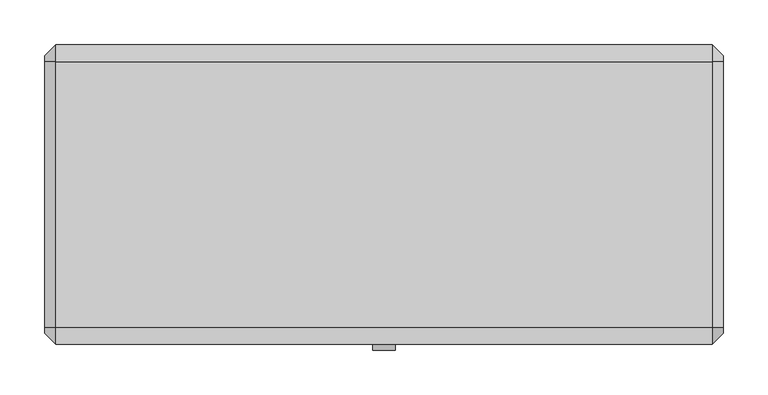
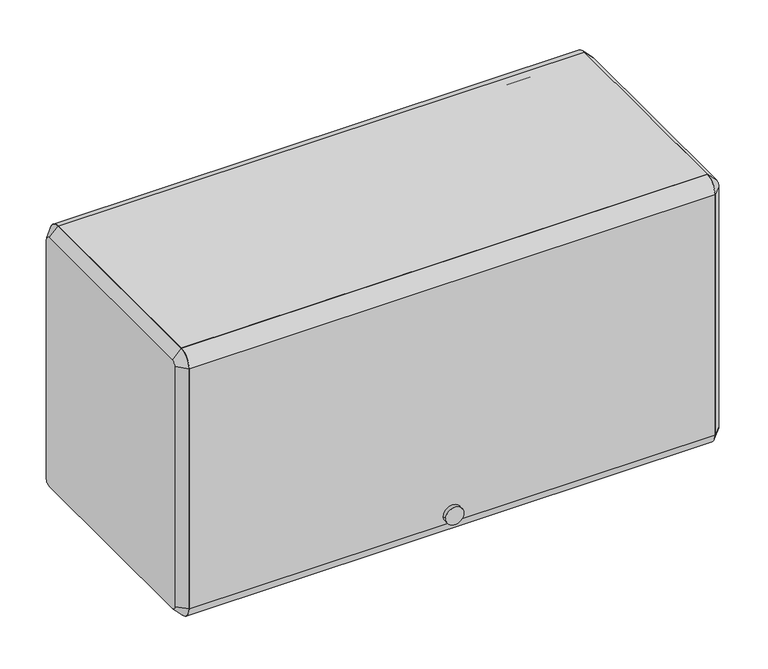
"""IFC4 building model written with IfcOpenShell, lengths in millimetres: furniture geometry."""

from ifc_helpers import new_model, si_unit, point, frame, frame_2d, origin, place, context, project, spatial, polyline, circle_curve, trimmed, segment, composite_curve, outline, extrude, source, transform, mapped, element, save
from ifc_brep_helpers import plane_surface, revolved_surface, advanced_brep


def furniture_12885719(model_context):
    return source(origin(), model_context, "Body", "SolidModel", [
        extrude(outline(composite_curve([segment(polyline([(-136.525, 1917.7), (-136.525, 1930.4), (161.925, 1930.4)]), True, "CONTINUOUS"), segment(trimmed(circle_curve(frame_2d((161.925, 1911.35)), 19.05), [point((161.925, 1930.4))], [point((180.975, 1911.35))], False, "CARTESIAN"), True, "CONTINUOUS"), segment(polyline([(180.975, 1911.35), (168.275, 1911.35)]), True, "CONTINUOUS"), segment(trimmed(circle_curve(frame_2d((161.925, 1911.35)), 6.35), [point((168.275, 1911.35))], [point((161.925, 1917.7))], True, "CARTESIAN"), True, "CONTINUOUS"), segment(polyline([(161.925, 1917.7), (-136.525, 1917.7)]), True, "CONTINUOUS")], self_intersect=False)), frame((-368.3, 0.0, 0.0), z_axis=(1.0, 0.0, 0.0), x_axis=(0.0, 1.0, 0.0)), (0.0, 0.0, 1.0), 736.6),
        extrude(outline(composite_curve([segment(trimmed(circle_curve(frame_2d((-136.525, 1911.35)), 19.05), [point((-155.575, 1911.35))], [point((-136.525, 1930.4))], False, "CARTESIAN"), True, "CONTINUOUS"), segment(polyline([(-136.525, 1930.4), (-136.525, 1917.7)]), True, "CONTINUOUS"), segment(trimmed(circle_curve(frame_2d((-136.525, 1911.35)), 6.35), [point((-136.525, 1917.7))], [point((-142.875, 1911.35))], True, "CARTESIAN"), True, "CONTINUOUS"), segment(polyline([(-142.875, 1911.35), (-142.875, 1555.75)]), True, "CONTINUOUS"), segment(trimmed(circle_curve(frame_2d((-136.525, 1555.75)), 6.35), [point((-142.875, 1555.75))], [point((-136.525, 1549.4))], True, "CARTESIAN"), True, "CONTINUOUS"), segment(polyline([(-136.525, 1549.4), (-136.525, 1536.7)]), True, "CONTINUOUS"), segment(trimmed(circle_curve(frame_2d((-136.525, 1555.75)), 19.05), [point((-136.525, 1536.7))], [point((-155.575, 1555.75))], False, "CARTESIAN"), True, "CONTINUOUS"), segment(polyline([(-155.575, 1555.75), (-155.575, 1911.35)]), True, "CONTINUOUS")], self_intersect=False)), frame((-368.3, 0.0, 0.0), z_axis=(1.0, 0.0, 0.0), x_axis=(0.0, 1.0, 0.0)), (0.0, 0.0, 1.0), 736.6),
        extrude(outline(composite_curve([segment(trimmed(circle_curve(frame_2d((1568.4118906, 0.0201199)), 12.7253951), [point((1568.4118906, 12.745515))], [point((1568.4118906, -12.7052752))], False, "CARTESIAN"), True, "CONTINUOUS"), segment(trimmed(circle_curve(frame_2d((1568.4118906, 0.0201199)), 12.7253951), [point((1568.4118906, -12.7052752))], [point((1568.4118906, 12.745515))], False, "CARTESIAN"), True, "CONTINUOUS")], self_intersect=False)), frame((0.0, -161.925, 0.0), z_axis=(0.0, 1.0, 0.0), x_axis=(0.0, 0.0, 1.0)), (0.0, 0.0, 1.0), 6.35),
        extrude(outline(polyline([(-136.525, 1574.8), (161.925, 1574.8), (161.925, 1612.9), (174.625, 1612.9), (174.625, 1609.725), (165.1, 1609.725), (165.1, 1571.625), (-133.35, 1571.625), (-133.35, 1552.575), (-136.525, 1552.575), (-136.525, 1574.8)])), frame((-368.3, 0.0, 0.0), z_axis=(1.0, 0.0, 0.0), x_axis=(0.0, 1.0, 0.0)), (0.0, 0.0, 1.0), 736.6),
        advanced_brep(
        [(381.0, 161.925, 1917.7), (381.0, -136.525, 1917.7), (381.0, -142.875, 1911.35), (381.0, -142.875, 1555.75), (381.0, -136.525, 1549.4), (381.0, 161.925, 1549.4), (381.0, 168.275, 1555.75), (381.0, 168.275, 1911.35), (368.3, 161.925, 1930.4), (368.3, 180.975, 1911.35), (368.3, 180.975, 1555.75), (368.3, 161.925, 1536.7), (368.3, -136.525, 1536.7), (368.3, -155.575, 1555.75), (368.3, -155.575, 1911.35), (368.3, -136.525, 1930.4)],
        [
            (0, 1),
            (1, 2, circle_curve(frame((381.0, -136.525, 1911.35), z_axis=(1.0, 6.490807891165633e-12, -6.586731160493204e-12), x_axis=(6.586694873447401e-12, 0.0, 1.0)), 6.35)),
            (2, 3),
            (3, 4, circle_curve(frame((381.0, -136.525, 1555.75), z_axis=(1.0, 3.3733016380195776e-12, 3.3892888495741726e-12), x_axis=(3.373343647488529e-12, -1.0, 0.0)), 6.35)),
            (4, 5),
            (5, 6, circle_curve(frame((381.0, 161.925, 1555.75), z_axis=(1.0, 3.381295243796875e-12, -3.3892888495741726e-12), x_axis=(-3.38935859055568e-12, 0.0, -1.0)), 6.35)),
            (6, 7),
            (7, 0, circle_curve(frame((381.0, 161.925, 1911.35), z_axis=(1.0, 6.482814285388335e-12, 6.4162009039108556e-12), x_axis=(-6.482754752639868e-12, 1.0, 0.0)), 6.35)),
            (8, 9, circle_curve(frame((368.3, 161.925, 1911.35), z_axis=(-1.0, -6.482814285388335e-12, -6.4162009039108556e-12), x_axis=(-6.482754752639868e-12, 1.0, 0.0)), 19.05)),
            (9, 10),
            (10, 11, circle_curve(frame((368.3, 161.925, 1555.75), z_axis=(-1.0, -3.381295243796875e-12, 3.3892888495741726e-12), x_axis=(-3.38935859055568e-12, 0.0, -1.0)), 19.05)),
            (11, 12),
            (12, 13, circle_curve(frame((368.3, -136.525, 1555.75), z_axis=(-1.0, -3.3733016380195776e-12, -3.3892888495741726e-12), x_axis=(3.373343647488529e-12, -1.0, 0.0)), 19.05)),
            (13, 14),
            (14, 15, circle_curve(frame((368.3, -136.525, 1911.35), z_axis=(-1.0, -6.490807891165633e-12, 6.586731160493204e-12), x_axis=(6.586694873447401e-12, 0.0, 1.0)), 19.05)),
            (15, 8),
            (15, 1),
            (0, 8),
            (14, 2),
            (13, 3),
            (12, 4),
            (11, 5),
            (10, 6),
            (9, 7),
        ],
        [
            plane_surface(frame((381.0, 12.7, 1733.55), z_axis=(1.0, 0.0, 0.0), x_axis=(0.0, -1.0, 0.0))),
            plane_surface(frame((368.3, 12.7, 1733.55), z_axis=(-1.0, 0.0, 0.0), x_axis=(0.0, -1.0, 0.0))),
            plane_surface(frame((368.3, 12.7, 1930.4), z_axis=(0.707106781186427, 0.0, 0.7071067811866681), x_axis=(0.0, -1.0, 0.0))),
            revolved_surface(polyline([(381.00000000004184, -136.525, 1917.6999999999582), (368.3, -136.525, 1930.4)]), (387.35, -136.525, 1911.35), (-1.0, -6.490807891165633e-12, 6.586731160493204e-12)),
            plane_surface(frame((368.3, -155.575, 1733.55), z_axis=(0.7071067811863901, -0.7071067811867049, 0.0), x_axis=(0.0, 0.0, -1.0))),
            revolved_surface(polyline([(381.00000000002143, -142.8749999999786, 1555.75), (368.2999999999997, -155.5750000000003, 1555.75)]), (387.35, -136.525, 1555.75), (-1.0, -3.3733016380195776e-12, -3.3892888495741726e-12)),
            plane_surface(frame((368.3, 12.7, 1536.7), z_axis=(0.7071067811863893, 0.0, -0.7071067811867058), x_axis=(0.0, 1.0, 0.0))),
            revolved_surface(polyline([(381.0, 161.925, 1549.4), (368.29999999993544, 161.925, 1536.6999999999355)]), (387.35, 161.925, 1555.75), (-1.0, -3.381295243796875e-12, 3.3892888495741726e-12)),
            plane_surface(frame((368.3, 180.975, 1733.55), z_axis=(0.7071067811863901, 0.7071067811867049, 0.0), x_axis=(0.0, 0.0, 1.0))),
            revolved_surface(polyline([(381.0, 168.27500000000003, 1911.35), (368.2999999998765, 180.9750000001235, 1911.35)]), (387.35, 161.925, 1911.35), (-1.0, -6.482814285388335e-12, -6.4162009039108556e-12)),
        ],
        [
            (0, [[1, 2, 3, 4, 5, 6, 7, 8]]),
            (1, [[9, 10, 11, 12, 13, 14, 15, 16]]),
            (2, [[-16, 17, -1, 18]]),
            (3, [[-15, 19, -2, -17]]),
            (4, [[-14, 20, -3, -19]]),
            (5, [[-13, 21, -4, -20]]),
            (6, [[-12, 22, -5, -21]]),
            (7, [[-11, 23, -6, -22]]),
            (8, [[-10, 24, -7, -23]]),
            (9, [[-9, -18, -8, -24]]),
        ],
    ),
        advanced_brep(
        [(-381.0, -136.525, 1917.7), (-381.0, 161.925, 1917.7), (-381.0, 168.275, 1911.35), (-381.0, 168.275, 1555.75), (-381.0, 161.925, 1549.4), (-381.0, -136.525, 1549.4), (-381.0, -142.875, 1555.75), (-381.0, -142.875, 1911.35), (-368.3, -136.525, 1930.4), (-368.3, -155.575, 1911.35), (-368.3, -155.575, 1555.75), (-368.3, -136.525, 1536.7), (-368.3, 161.925, 1536.7), (-368.3, 180.975, 1555.75), (-368.3, 180.975, 1911.35), (-368.3, 161.925, 1930.4)],
        [
            (0, 1),
            (1, 2, circle_curve(frame((-381.0, 161.925, 1911.35), z_axis=(-1.0, 3.3653080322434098e-12, 3.4106051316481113e-12), x_axis=(3.410554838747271e-12, 0.0, 1.0)), 6.35)),
            (2, 3),
            (3, 4, circle_curve(frame((-381.0, 161.925, 1555.75), z_axis=(-1.0, 0.0, 0.0), x_axis=(0.0, 1.0, 0.0)), 6.35)),
            (4, 5),
            (5, 6, circle_curve(frame((-381.0, -136.525, 1555.75), z_axis=(-1.0, 0.0, 0.0), x_axis=(0.0, 0.0, -1.0)), 6.35)),
            (6, 7),
            (7, 0, circle_curve(frame((-381.0, -136.525, 1911.35), z_axis=(-1.0, 3.3812952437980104e-12, -3.304023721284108e-12), x_axis=(-3.381351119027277e-12, -1.0, 0.0)), 6.35)),
            (8, 9, circle_curve(frame((-368.3, -136.525, 1911.35), z_axis=(1.0, -3.3812952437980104e-12, 3.304023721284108e-12), x_axis=(-3.381351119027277e-12, -1.0, 0.0)), 19.05)),
            (9, 10),
            (10, 11, circle_curve(frame((-368.3, -136.525, 1555.75), z_axis=(1.0, 0.0, 0.0), x_axis=(0.0, 0.0, -1.0)), 19.05)),
            (11, 12),
            (12, 13, circle_curve(frame((-368.3, 161.925, 1555.75), z_axis=(1.0, 0.0, 0.0), x_axis=(0.0, 1.0, 0.0)), 19.05)),
            (13, 14),
            (14, 15, circle_curve(frame((-368.3, 161.925, 1911.35), z_axis=(1.0, -3.3653080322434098e-12, -3.4106051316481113e-12), x_axis=(3.410554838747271e-12, 0.0, 1.0)), 19.05)),
            (15, 8),
            (15, 1),
            (0, 8),
            (14, 2),
            (13, 3),
            (12, 4),
            (11, 5),
            (10, 6),
            (9, 7),
        ],
        [
            plane_surface(frame((-381.0, 12.7, 1733.55), z_axis=(-1.0, 0.0, 0.0), x_axis=(0.0, -1.0, 0.0))),
            plane_surface(frame((-368.3, 12.7, 1733.55), z_axis=(1.0, 0.0, 0.0), x_axis=(0.0, -1.0, 0.0))),
            plane_surface(frame((-368.3, 12.7, 1930.4), z_axis=(-0.7071067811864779, 0.0, 0.7071067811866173), x_axis=(0.0, 1.0, 0.0))),
            revolved_surface(polyline([(-381.0, 161.925, 1917.7), (-368.29999999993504, 161.925, 1930.4000000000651)]), (-387.35, 161.925, 1911.35), (1.0, -3.3653080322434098e-12, -3.4106051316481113e-12)),
            plane_surface(frame((-368.3, 180.975, 1733.55), z_axis=(-0.7071067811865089, 0.7071067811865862, 0.0), x_axis=(0.0, 0.0, -1.0))),
            revolved_surface(polyline([(-381.0, 168.27500000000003, 1555.75), (-368.3, 180.975, 1555.75)]), (-387.35, 161.925, 1555.75), (1.0, 0.0, 0.0)),
            plane_surface(frame((-368.3, 12.7, 1536.7), z_axis=(-0.7071067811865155, 0.0, -0.7071067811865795), x_axis=(0.0, -1.0, 0.0))),
            revolved_surface(polyline([(-381.0, -136.525, 1549.4), (-368.3, -136.525, 1536.7)]), (-387.35, -136.525, 1555.75), (1.0, 0.0, 0.0)),
            plane_surface(frame((-368.3, -155.575, 1733.55), z_axis=(-0.7071067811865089, -0.7071067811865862, 0.0), x_axis=(0.0, 0.0, 1.0))),
            revolved_surface(polyline([(-381.0000000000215, -142.87499999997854, 1911.35), (-368.3, -155.575, 1911.35)]), (-387.35, -136.525, 1911.35), (1.0, -3.3812952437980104e-12, 3.304023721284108e-12)),
        ],
        [
            (0, [[1, 2, 3, 4, 5, 6, 7, 8]]),
            (1, [[9, 10, 11, 12, 13, 14, 15, 16]]),
            (2, [[-16, 17, -1, 18]]),
            (3, [[-15, 19, -2, -17]]),
            (4, [[-14, 20, -3, -19]]),
            (5, [[-13, 21, -4, -20]]),
            (6, [[-12, 22, -5, -21]]),
            (7, [[-11, 23, -6, -22]]),
            (8, [[-10, 24, -7, -23]]),
            (9, [[-9, -18, -8, -24]]),
        ],
    ),
    ])


if __name__ == "__main__":
    model = new_model("IFC4")
    model_context = context("Model", 3, world=origin())
    ifc_project = project(units=[si_unit("LENGTHUNIT", "METRE", prefix="MILLI")], contexts=[model_context])
    site = spatial("IfcSite", under=ifc_project)
    building = spatial("IfcBuilding", under=site)
    placement = place(None, origin())
    furniture_shape = furniture_12885719(model_context)
    element("IfcFurniture", 1, ObjectType="HermanMiller_ActionOffice_A3352_B-StyleFlipperDoorUnit : 15 1/2\"H x 13\"D x 30\"W", at=placement, inside=building, context=model_context, shape_type="MappedRepresentation", body=[
        mapped(furniture_shape, transform((0.0, 0.0, 0.0), x_axis=(1.0, 0.0, 0.0), y_axis=(0.0, 1.0, 0.0), z_axis=(0.0, 0.0, 1.0))),
    ])
    save(model, "model.ifc")
